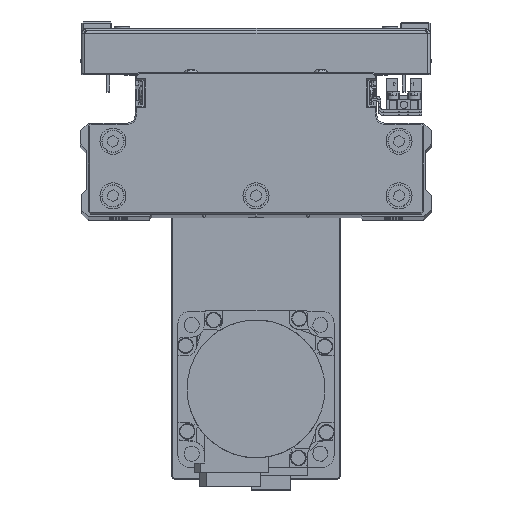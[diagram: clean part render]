
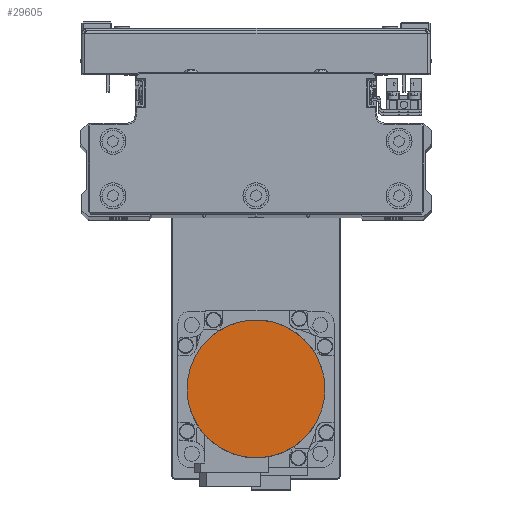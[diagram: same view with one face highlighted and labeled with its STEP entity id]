
A CAD part, top view. The second image highlights one B-rep face of the part: STEP entity #29605.
In plain terms, the highlighted planar face has unit normal (0, 0, 1) as drawn and (0, 0, -1) by its records, which use the part's own axes.
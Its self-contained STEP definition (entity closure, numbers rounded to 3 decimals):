
#771 = CARTESIAN_POINT ( 'NONE',  ( -11.744, -23.819, -109.7 ) ) ;
#1003 = CARTESIAN_POINT ( 'NONE',  ( 19.965, -17.512, -109.7 ) ) ;
#1016 = B_SPLINE_CURVE_WITH_KNOTS ( 'NONE', 3,
 ( #23627, #12737, #26300, #39905, #9414, #22990, #36583, #6068, #19636, #33222, #2728, #16309, #29870, #43455, #12972, #26533, #40129, #9635, #23208, #36795, #6288, #19856, #33441, #2950, #16529, #30097, #43683, #13195, #26748, #40340, #9849, #23430, #37019, #6511 ),
 .UNSPECIFIED., .F., .F.,
 ( 4, 2, 2, 2, 2, 2, 2, 2, 2, 2, 2, 2, 2, 2, 2, 2, 4 ),
 ( 0., 0.062, 0.125, 0.187, 0.25, 0.312, 0.375, 0.437, 0.5, 0.562, 0.625, 0.687, 0.75, 0.813, 0.875, 0.938, 1. ),
 .UNSPECIFIED. ) ;
#2728 = CARTESIAN_POINT ( 'NONE',  ( 16.165, 21.07, -109.7 ) ) ;
#2950 = CARTESIAN_POINT ( 'NONE',  ( -16.165, 21.07, -109.7 ) ) ;
#4111 = CARTESIAN_POINT ( 'NONE',  ( -17.512, -19.965, -109.7 ) ) ;
#4331 = CARTESIAN_POINT ( 'NONE',  ( 13.28, -22.998, -109.7 ) ) ;
#6068 = CARTESIAN_POINT ( 'NONE',  ( 21.07, 16.165, -109.7 ) ) ;
#6288 = CARTESIAN_POINT ( 'NONE',  ( -8.539, 25.147, -109.7 ) ) ;
#6511 = CARTESIAN_POINT ( 'NONE',  ( -26.5, 0., -109.7 ) ) ;
#7171 = EDGE_CURVE ( 'NONE', #26438, #27154, #1016, .T. ) ;
#7469 = CARTESIAN_POINT ( 'NONE',  ( -22.998, -13.28, -109.7 ) ) ;
#7682 = CARTESIAN_POINT ( 'NONE',  ( 6.871, -25.652, -109.7 ) ) ;
#7913 = CARTESIAN_POINT ( 'NONE',  ( 26.5, -1.734, -109.7 ) ) ;
#9414 = CARTESIAN_POINT ( 'NONE',  ( 25.147, 8.539, -109.7 ) ) ;
#9635 = CARTESIAN_POINT ( 'NONE',  ( -1.734, 26.5, -109.7 ) ) ;
#9849 = CARTESIAN_POINT ( 'NONE',  ( -25.652, 6.871, -109.7 ) ) ;
#10593 = CARTESIAN_POINT ( 'NONE',  ( 0., 0., -109.7 ) ) ;
#10792 = CARTESIAN_POINT ( 'NONE',  ( -25.652, -6.871, -109.7 ) ) ;
#11027 = CARTESIAN_POINT ( 'NONE',  ( -1.734, -26.5, -109.7 ) ) ;
#11241 = CARTESIAN_POINT ( 'NONE',  ( 25.147, -8.539, -109.7 ) ) ;
#12737 = CARTESIAN_POINT ( 'NONE',  ( 26.5, 1.734, -109.7 ) ) ;
#12972 = CARTESIAN_POINT ( 'NONE',  ( 6.871, 25.652, -109.7 ) ) ;
#13195 = CARTESIAN_POINT ( 'NONE',  ( -22.998, 13.28, -109.7 ) ) ;
#14127 = CARTESIAN_POINT ( 'NONE',  ( -26.5, 0., -109.7 ) ) ;
#14360 = CARTESIAN_POINT ( 'NONE',  ( -8.539, -25.147, -109.7 ) ) ;
#14590 = CARTESIAN_POINT ( 'NONE',  ( 21.07, -16.165, -109.7 ) ) ;
#16309 = CARTESIAN_POINT ( 'NONE',  ( 13.28, 22.998, -109.7 ) ) ;
#16529 = CARTESIAN_POINT ( 'NONE',  ( -17.512, 19.965, -109.7 ) ) ;
#17681 = CARTESIAN_POINT ( 'NONE',  ( -16.165, -21.07, -109.7 ) ) ;
#17906 = CARTESIAN_POINT ( 'NONE',  ( 16.165, -21.07, -109.7 ) ) ;
#19636 = CARTESIAN_POINT ( 'NONE',  ( 19.965, 17.512, -109.7 ) ) ;
#19856 = CARTESIAN_POINT ( 'NONE',  ( -11.744, 23.819, -109.7 ) ) ;
#20911 = ORIENTED_EDGE ( 'NONE', *, *, #26392, .F. ) ;
#21016 = CARTESIAN_POINT ( 'NONE',  ( -21.07, -16.165, -109.7 ) ) ;
#21232 = CARTESIAN_POINT ( 'NONE',  ( 8.539, -25.147, -109.7 ) ) ;
#21463 = CARTESIAN_POINT ( 'NONE',  ( 26.5, 0., -109.7 ) ) ;
#21902 = CARTESIAN_POINT ( 'NONE',  ( 26.5, 0., -109.7 ) ) ;
#22684 = EDGE_LOOP ( 'NONE', ( #28653, #20911 ) ) ;
#22990 = CARTESIAN_POINT ( 'NONE',  ( 23.819, 11.744, -109.7 ) ) ;
#23208 = CARTESIAN_POINT ( 'NONE',  ( -3.469, 26.329, -109.7 ) ) ;
#23430 = CARTESIAN_POINT ( 'NONE',  ( -26.329, 3.469, -109.7 ) ) ;
#23627 = CARTESIAN_POINT ( 'NONE',  ( 26.5, 0., -109.7 ) ) ;
#23699 = B_SPLINE_CURVE_WITH_KNOTS ( 'NONE', 3,
 ( #14127, #27693, #41281, #10792, #24366, #37959, #7469, #21016, #34608, #4111, #17681, #31265, #771, #14360, #27923, #41507, #11027, #24585, #38177, #7682, #21232, #34840, #4331, #17906, #31496, #1003, #14590, #28146, #41727, #11241, #24794, #38397, #7913, #21463 ),
 .UNSPECIFIED., .F., .F.,
 ( 4, 2, 2, 2, 2, 2, 2, 2, 2, 2, 2, 2, 2, 2, 2, 2, 4 ),
 ( 0., 0.063, 0.125, 0.188, 0.25, 0.312, 0.375, 0.437, 0.5, 0.562, 0.625, 0.687, 0.75, 0.813, 0.875, 0.938, 1. ),
 .UNSPECIFIED. ) ;
#24166 = DIRECTION ( 'NONE',  ( 0., 0., 1. ) ) ;
#24366 = CARTESIAN_POINT ( 'NONE',  ( -25.147, -8.539, -109.7 ) ) ;
#24585 = CARTESIAN_POINT ( 'NONE',  ( 1.734, -26.5, -109.7 ) ) ;
#24794 = CARTESIAN_POINT ( 'NONE',  ( 25.652, -6.871, -109.7 ) ) ;
#26300 = CARTESIAN_POINT ( 'NONE',  ( 26.329, 3.469, -109.7 ) ) ;
#26392 = EDGE_CURVE ( 'NONE', #27154, #26438, #23699, .T. ) ;
#26438 = VERTEX_POINT ( 'NONE', #21902 ) ;
#26533 = CARTESIAN_POINT ( 'NONE',  ( 3.469, 26.329, -109.7 ) ) ;
#26748 = CARTESIAN_POINT ( 'NONE',  ( -23.819, 11.744, -109.7 ) ) ;
#27154 = VERTEX_POINT ( 'NONE', #34619 ) ;
#27503 = FACE_OUTER_BOUND ( 'NONE', #22684, .T. ) ;
#27693 = CARTESIAN_POINT ( 'NONE',  ( -26.5, -1.734, -109.7 ) ) ;
#27923 = CARTESIAN_POINT ( 'NONE',  ( -6.871, -25.652, -109.7 ) ) ;
#28146 = CARTESIAN_POINT ( 'NONE',  ( 22.998, -13.28, -109.7 ) ) ;
#28653 = ORIENTED_EDGE ( 'NONE', *, *, #7171, .F. ) ;
#29605 = ADVANCED_FACE ( 'NONE', ( #27503 ), #41077, .F. ) ;
#29870 = CARTESIAN_POINT ( 'NONE',  ( 11.744, 23.819, -109.7 ) ) ;
#30097 = CARTESIAN_POINT ( 'NONE',  ( -19.965, 17.512, -109.7 ) ) ;
#31265 = CARTESIAN_POINT ( 'NONE',  ( -13.28, -22.998, -109.7 ) ) ;
#31496 = CARTESIAN_POINT ( 'NONE',  ( 17.512, -19.965, -109.7 ) ) ;
#33222 = CARTESIAN_POINT ( 'NONE',  ( 17.512, 19.965, -109.7 ) ) ;
#33441 = CARTESIAN_POINT ( 'NONE',  ( -13.28, 22.998, -109.7 ) ) ;
#34608 = CARTESIAN_POINT ( 'NONE',  ( -19.965, -17.512, -109.7 ) ) ;
#34619 = CARTESIAN_POINT ( 'NONE',  ( -26.5, 0., -109.7 ) ) ;
#34840 = CARTESIAN_POINT ( 'NONE',  ( 11.744, -23.819, -109.7 ) ) ;
#36583 = CARTESIAN_POINT ( 'NONE',  ( 22.998, 13.28, -109.7 ) ) ;
#36795 = CARTESIAN_POINT ( 'NONE',  ( -6.871, 25.652, -109.7 ) ) ;
#37019 = CARTESIAN_POINT ( 'NONE',  ( -26.5, 1.734, -109.7 ) ) ;
#37754 = DIRECTION ( 'NONE',  ( 1., 0., 0. ) ) ;
#37867 = AXIS2_PLACEMENT_3D ( 'NONE', #10593, #24166, #37754 ) ;
#37959 = CARTESIAN_POINT ( 'NONE',  ( -23.819, -11.744, -109.7 ) ) ;
#38177 = CARTESIAN_POINT ( 'NONE',  ( 3.469, -26.329, -109.7 ) ) ;
#38397 = CARTESIAN_POINT ( 'NONE',  ( 26.329, -3.469, -109.7 ) ) ;
#39905 = CARTESIAN_POINT ( 'NONE',  ( 25.652, 6.871, -109.7 ) ) ;
#40129 = CARTESIAN_POINT ( 'NONE',  ( 1.734, 26.5, -109.7 ) ) ;
#40340 = CARTESIAN_POINT ( 'NONE',  ( -25.147, 8.539, -109.7 ) ) ;
#41077 = PLANE ( 'NONE',  #37867 ) ;
#41281 = CARTESIAN_POINT ( 'NONE',  ( -26.329, -3.469, -109.7 ) ) ;
#41507 = CARTESIAN_POINT ( 'NONE',  ( -3.469, -26.329, -109.7 ) ) ;
#41727 = CARTESIAN_POINT ( 'NONE',  ( 23.819, -11.744, -109.7 ) ) ;
#43455 = CARTESIAN_POINT ( 'NONE',  ( 8.539, 25.147, -109.7 ) ) ;
#43683 = CARTESIAN_POINT ( 'NONE',  ( -21.07, 16.165, -109.7 ) ) ;
